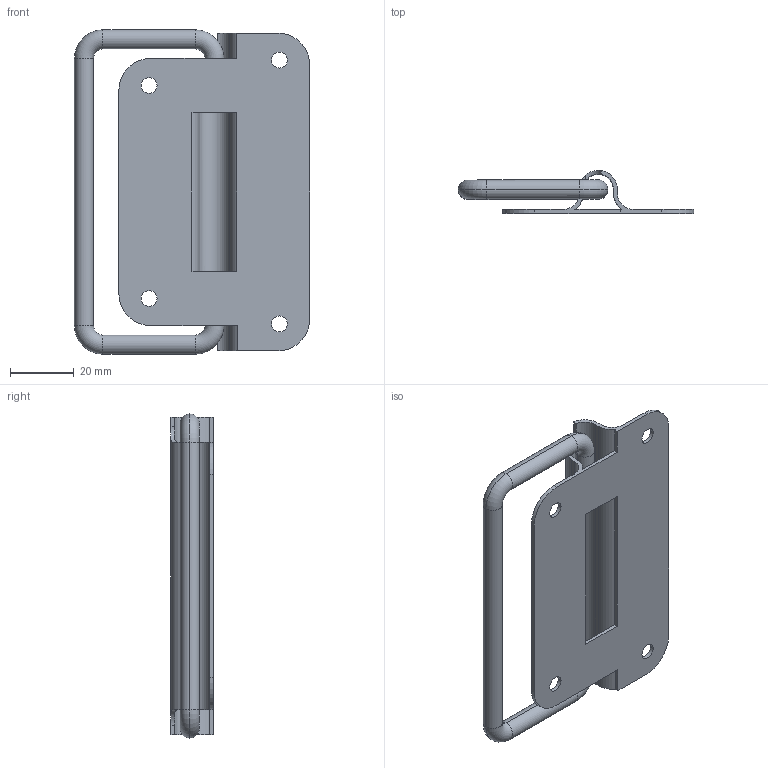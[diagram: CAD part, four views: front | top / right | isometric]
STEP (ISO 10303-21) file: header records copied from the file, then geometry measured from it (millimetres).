
FILE_DESCRIPTION (( 'STEP AP203' ), '1' );
FILE_NAME ('E18-51801.STEP', '2024-01-31T02:23:03', ( '' ), ( '' ), 'SwSTEP 2.0', 'SolidWorks 2021', '' );
FILE_SCHEMA (( 'CONFIG_CONTROL_DESIGN' ));
Length unit declared in the file: millimetre
Products named in the file (3): E18-51801; E18-51801-1; E18-51801-2
Assembly tree (2 placements, depth 2):
  E18-51801
    E18-51801-1
    E18-51801-2
Bounding box: 74 x 13.5 x 102 mm (x, y, z)
Volume: 14583.9 mm3; surface area: 18979.2 mm2
Topology: 2 solids, 2 shells, 62 faces, 163 edges, 103 vertices
Faces by surface type: cylinder 30, plane 24, torus 8
Entity records: 2328 total; most frequent: CARTESIAN_POINT 421, DIRECTION 361, ORIENTED_EDGE 326, EDGE_CURVE 163, AXIS2_PLACEMENT_3D 135, VERTEX_POINT 103, VECTOR 91, LINE 91
